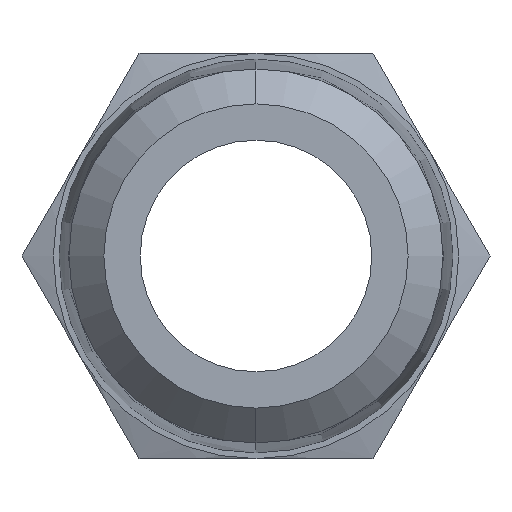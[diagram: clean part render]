
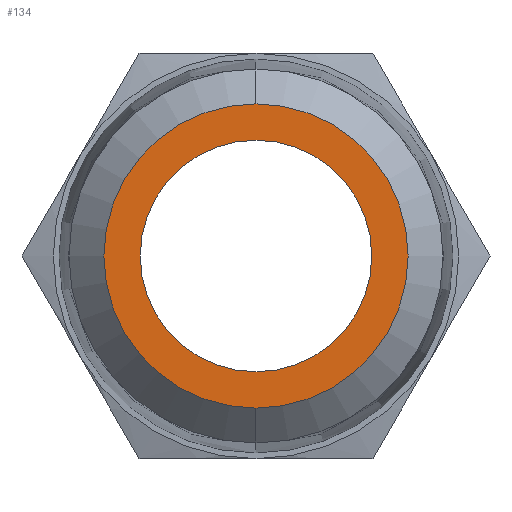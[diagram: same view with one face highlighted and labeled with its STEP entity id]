
A CAD part, left-side view. The second image highlights one B-rep face of the part: STEP entity #134.
In plain terms, the highlighted planar face has unit normal (-1, 0, 0).
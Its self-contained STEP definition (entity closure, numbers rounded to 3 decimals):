
#4 = VERTEX_POINT ( 'NONE', #1215 ) ;
#15 = VERTEX_POINT ( 'NONE', #1302 ) ;
#18 = EDGE_CURVE ( 'NONE', #15, #4, #1301, .T. ) ;
#25 = EDGE_CURVE ( 'NONE', #27, #26, #1281, .T. ) ;
#26 = VERTEX_POINT ( 'NONE', #1271 ) ;
#27 = VERTEX_POINT ( 'NONE', #1270 ) ;
#134 = ADVANCED_FACE ( 'NONE', ( #461, #466 ), #465, .T. ) ;
#135 = EDGE_LOOP ( 'NONE', ( #136, #138 ) ) ;
#136 = ORIENTED_EDGE ( 'NONE', *, *, #137, .T. ) ;
#137 = EDGE_CURVE ( 'NONE', #4, #15, #531, .T. ) ;
#138 = ORIENTED_EDGE ( 'NONE', *, *, #18, .T. ) ;
#139 = EDGE_LOOP ( 'NONE', ( #140, #142 ) ) ;
#140 = ORIENTED_EDGE ( 'NONE', *, *, #141, .F. ) ;
#141 = EDGE_CURVE ( 'NONE', #26, #27, #525, .T. ) ;
#142 = ORIENTED_EDGE ( 'NONE', *, *, #25, .F. ) ;
#461 = FACE_OUTER_BOUND ( 'NONE', #135, .T. ) ;
#464 = CARTESIAN_POINT ( 'NONE',  ( -19., 0., 0. ) ) ;
#465 = PLANE ( 'NONE',  #555 ) ;
#466 = FACE_BOUND ( 'NONE', #139, .T. ) ;
#522 = DIRECTION ( 'NONE',  ( 0., 0., 1. ) ) ;
#523 = DIRECTION ( 'NONE',  ( -1., 0., 0. ) ) ;
#524 = AXIS2_PLACEMENT_3D ( 'NONE', #552, #523, #522 ) ;
#525 = CIRCLE ( 'NONE', #524, 6.35 ) ;
#527 = DIRECTION ( 'NONE',  ( 0., 0., 1. ) ) ;
#528 = DIRECTION ( 'NONE',  ( -1., 0., 0. ) ) ;
#529 = CARTESIAN_POINT ( 'NONE',  ( -19., 0., 0. ) ) ;
#530 = AXIS2_PLACEMENT_3D ( 'NONE', #529, #528, #527 ) ;
#531 = CIRCLE ( 'NONE', #530, 8.344 ) ;
#552 = CARTESIAN_POINT ( 'NONE',  ( -19., 0., 0. ) ) ;
#553 = DIRECTION ( 'NONE',  ( 0., 0., 1. ) ) ;
#554 = DIRECTION ( 'NONE',  ( -1., 0., 0. ) ) ;
#555 = AXIS2_PLACEMENT_3D ( 'NONE', #464, #554, #553 ) ;
#1215 = CARTESIAN_POINT ( 'NONE',  ( -19., 0., -8.344 ) ) ;
#1270 = CARTESIAN_POINT ( 'NONE',  ( -19., 0., -6.35 ) ) ;
#1271 = CARTESIAN_POINT ( 'NONE',  ( -19., 0., 6.35 ) ) ;
#1272 = DIRECTION ( 'NONE',  ( 0., 0., 1. ) ) ;
#1273 = DIRECTION ( 'NONE',  ( -1., 0., 0. ) ) ;
#1274 = CARTESIAN_POINT ( 'NONE',  ( -19., 0., 0. ) ) ;
#1275 = AXIS2_PLACEMENT_3D ( 'NONE', #1274, #1273, #1272 ) ;
#1281 = CIRCLE ( 'NONE', #1275, 6.35 ) ;
#1297 = DIRECTION ( 'NONE',  ( 0., 0., 1. ) ) ;
#1298 = DIRECTION ( 'NONE',  ( -1., 0., 0. ) ) ;
#1299 = CARTESIAN_POINT ( 'NONE',  ( -19., 0., 0. ) ) ;
#1300 = AXIS2_PLACEMENT_3D ( 'NONE', #1299, #1298, #1297 ) ;
#1301 = CIRCLE ( 'NONE', #1300, 8.344 ) ;
#1302 = CARTESIAN_POINT ( 'NONE',  ( -19., 0., 8.344 ) ) ;
